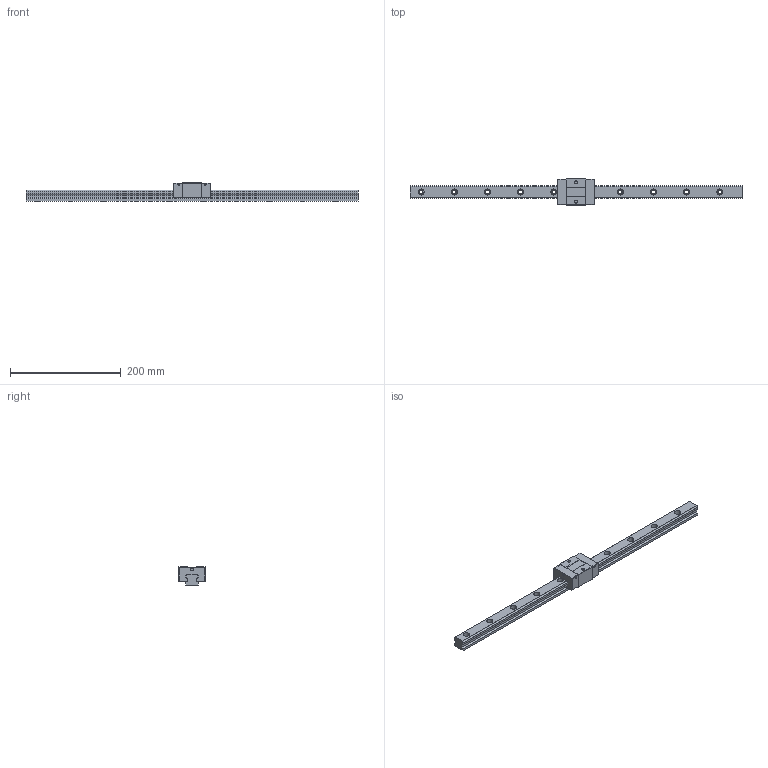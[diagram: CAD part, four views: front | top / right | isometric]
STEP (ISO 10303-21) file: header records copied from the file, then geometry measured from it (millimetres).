
FILE_DESCRIPTION (( 'STEP AP203' ), '1' );
FILE_NAME ('TRS25VS-ZN.STEP', '2024-06-12T09:06:24', ( '' ), ( '' ), 'SwSTEP 2.0', 'SolidWorks 2022', '' );
FILE_SCHEMA (( 'CONFIG_CONTROL_DESIGN' ));
Length unit declared in the file: millimetre
Products named in the file (1): TRS25VS-ZN
Bounding box: 600 x 48 x 33 mm (x, y, z)
Volume: 298221.1 mm3; surface area: 73350.3 mm2
Topology: 2 solids, 2 shells, 186 faces, 484 edges, 320 vertices
Faces by surface type: plane 94, cylinder 92
Entity records: 5863 total; most frequent: DIRECTION 1042, CARTESIAN_POINT 991, ORIENTED_EDGE 968, EDGE_CURVE 484, AXIS2_PLACEMENT_3D 371, VERTEX_POINT 320, LINE 300, VECTOR 300
